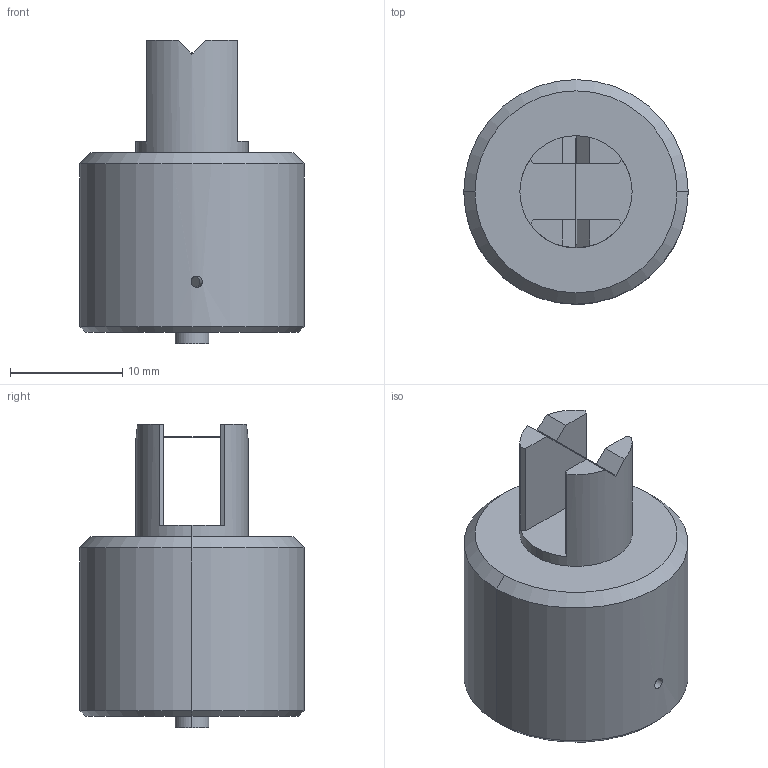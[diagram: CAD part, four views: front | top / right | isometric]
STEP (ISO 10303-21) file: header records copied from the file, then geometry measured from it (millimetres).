
FILE_DESCRIPTION (( 'STEP AP203' ), '1' );
FILE_NAME ('キャリブレーションゲージφ0.1.STEP', '2023-07-11T05:21:27', ( '' ), ( '' ), 'SwSTEP 2.0', 'SolidWorks 2021', '' );
FILE_SCHEMA (( 'CONFIG_CONTROL_DESIGN' ));
Length unit declared in the file: millimetre
Products named in the file (1): 僉儍儕僽儗乕僔儑儞僎乕僕冇0.1
Bounding box: 20 x 20 x 27 mm (x, y, z)
Volume: 5320.8 mm3; surface area: 2850.8 mm2
Topology: 3 solids, 3 shells, 40 faces, 92 edges, 59 vertices
Faces by surface type: plane 22, cylinder 12, cone 6
Entity records: 1237 total; most frequent: CARTESIAN_POINT 241, DIRECTION 198, ORIENTED_EDGE 184, EDGE_CURVE 92, AXIS2_PLACEMENT_3D 74, VERTEX_POINT 59, VECTOR 50, LINE 50
